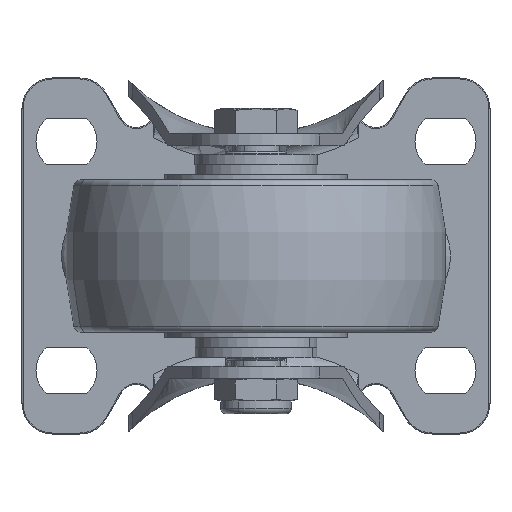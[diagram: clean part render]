
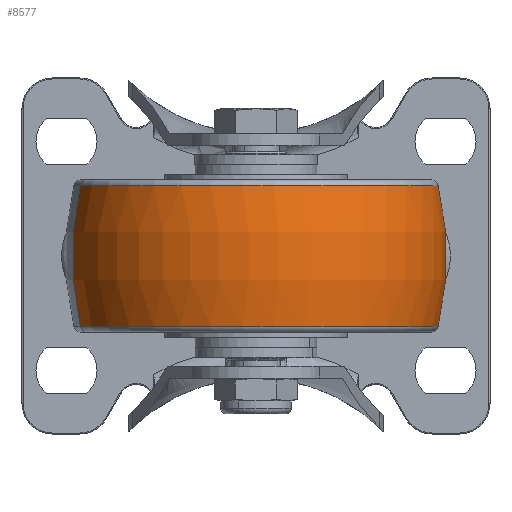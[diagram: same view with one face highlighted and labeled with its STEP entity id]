
A CAD part, front view. The second image highlights one B-rep face of the part: STEP entity #8577.
In plain terms, the highlighted toroidal (fillet/blend) face has major radius 22.5 mm and minor radius 60 mm.
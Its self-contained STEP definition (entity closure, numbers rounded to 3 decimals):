
#140 = AXIS2_PLACEMENT_3D ( 'NONE', #9202, #15624, #14269 ) ;
#173 = AXIS2_PLACEMENT_3D ( 'NONE', #12201, #13687, #14007 ) ;
#3109 = CARTESIAN_POINT ( 'NONE',  ( -13.846, 0., -35.881 ) ) ;
#3513 = ORIENTED_EDGE ( 'NONE', *, *, #10362, .T. ) ;
#4095 = VERTEX_POINT ( 'NONE', #3109 ) ;
#5042 = CIRCLE ( 'NONE', #7544, 60. ) ;
#6042 = DIRECTION ( 'NONE',  ( 0., 0., -1. ) ) ;
#6563 = ORIENTED_EDGE ( 'NONE', *, *, #7603, .F. ) ;
#6891 = EDGE_CURVE ( 'NONE', #20834, #16897, #5042, .T. ) ;
#7434 = DIRECTION ( 'NONE',  ( 0., 1., 0. ) ) ;
#7544 = AXIS2_PLACEMENT_3D ( 'NONE', #16302, #21457, #6042 ) ;
#7603 = EDGE_CURVE ( 'NONE', #4095, #16897, #14176, .T. ) ;
#8577 = ADVANCED_FACE ( 'NONE', ( #10623 ), #17114, .T. ) ;
#9202 = CARTESIAN_POINT ( 'NONE',  ( 13.846, 0., 0. ) ) ;
#9726 = DIRECTION ( 'NONE',  ( 0., 0., 1. ) ) ;
#10342 = CIRCLE ( 'NONE', #10701, 60. ) ;
#10362 = EDGE_CURVE ( 'NONE', #17691, #20834, #20353, .T. ) ;
#10623 = FACE_OUTER_BOUND ( 'NONE', #20969, .T. ) ;
#10701 = AXIS2_PLACEMENT_3D ( 'NONE', #19253, #7434, #14304 ) ;
#11409 = CARTESIAN_POINT ( 'NONE',  ( -13.846, 0., 0. ) ) ;
#12201 = CARTESIAN_POINT ( 'NONE',  ( 0., 0., 0. ) ) ;
#12820 = CARTESIAN_POINT ( 'NONE',  ( 13.846, 0., 35.881 ) ) ;
#13398 = EDGE_CURVE ( 'NONE', #17691, #4095, #10342, .T. ) ;
#13687 = DIRECTION ( 'NONE',  ( -1., 0., 0. ) ) ;
#14007 = DIRECTION ( 'NONE',  ( 0., 0., -1. ) ) ;
#14176 = CIRCLE ( 'NONE', #14537, 35.881 ) ;
#14269 = DIRECTION ( 'NONE',  ( 0., 0., 1. ) ) ;
#14304 = DIRECTION ( 'NONE',  ( 0., 0., 1. ) ) ;
#14537 = AXIS2_PLACEMENT_3D ( 'NONE', #11409, #21653, #9726 ) ;
#15624 = DIRECTION ( 'NONE',  ( -1., 0., 0. ) ) ;
#16302 = CARTESIAN_POINT ( 'NONE',  ( 0., 0., -22.5 ) ) ;
#16590 = CARTESIAN_POINT ( 'NONE',  ( -13.846, 0., 35.881 ) ) ;
#16897 = VERTEX_POINT ( 'NONE', #16590 ) ;
#17114 = TOROIDAL_SURFACE ( 'NONE', #173, -22.5, 60. ) ;
#17407 = CARTESIAN_POINT ( 'NONE',  ( 13.846, 0., -35.881 ) ) ;
#17691 = VERTEX_POINT ( 'NONE', #17407 ) ;
#18749 = ORIENTED_EDGE ( 'NONE', *, *, #6891, .T. ) ;
#19253 = CARTESIAN_POINT ( 'NONE',  ( 0., 0., 22.5 ) ) ;
#19513 = ORIENTED_EDGE ( 'NONE', *, *, #13398, .F. ) ;
#20353 = CIRCLE ( 'NONE', #140, 35.881 ) ;
#20834 = VERTEX_POINT ( 'NONE', #12820 ) ;
#20969 = EDGE_LOOP ( 'NONE', ( #19513, #3513, #18749, #6563 ) ) ;
#21457 = DIRECTION ( 'NONE',  ( 0., -1., 0. ) ) ;
#21653 = DIRECTION ( 'NONE',  ( -1., 0., 0. ) ) ;
